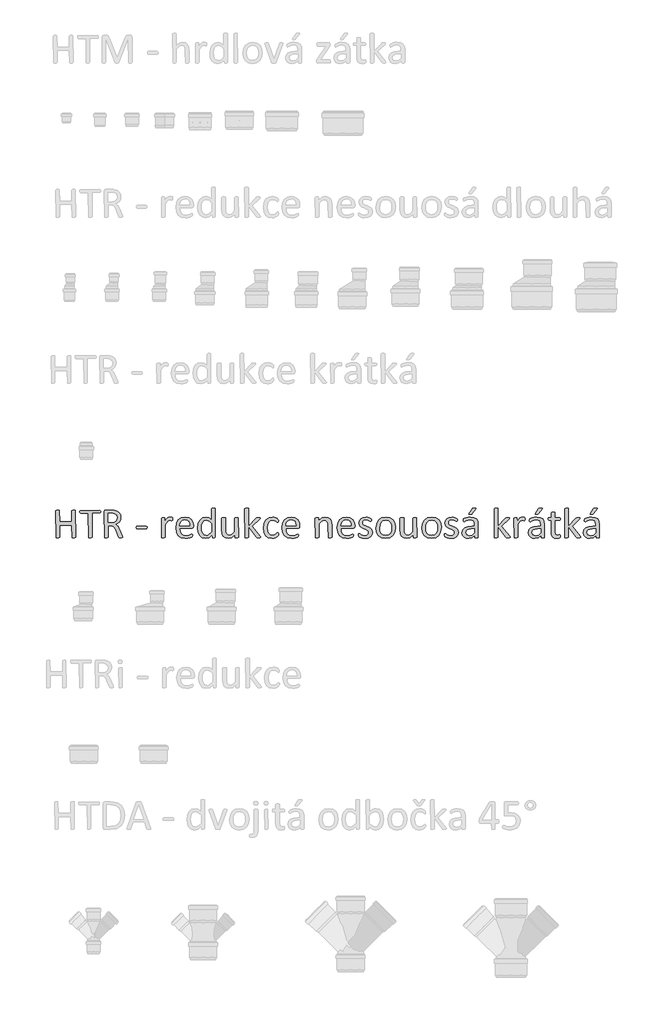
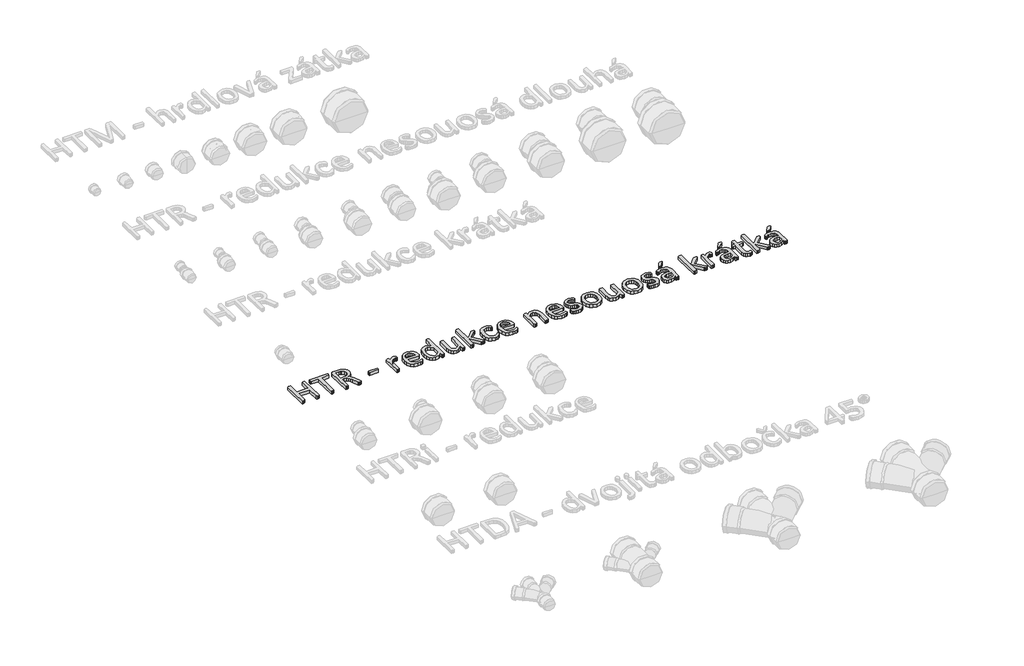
# One storey, part 20 of 26: 1 proxy.
"""IFC4 building model written with IfcOpenShell, lengths in millimetres."""

from ifc_helpers import new_model, si_unit, origin, origin_with_axes, place, context, project, spatial, polyline, outline, extrude, element, save

model = new_model("IFC4")

# Units and contexts
model_context = context("Model", 3, world=origin())
ifc_project = project(units=[si_unit("LENGTHUNIT", "METRE", prefix="MILLI")], contexts=[model_context])

# Site, building, storey
site = spatial("IfcSite", under=ifc_project)
building = spatial("IfcBuilding", under=site)
storey = spatial("IfcBuildingStorey", under=building, Name="Podlaží 1", Elevation=0.0)

# Proxy
placement = place(None, origin())
element("IfcBuildingElementProxy", 1, Name="120mm Arial", ObjectType="120mm Arial", at=placement, inside=storey, context=model_context, shape_type="SweptSolid", body=[
    extrude(outline(polyline([(-20460.0657483, 13191.6352271), (-20464.2817655, 13188.9029584), (-20468.1358927, 13188.66773), (-20472.1166815, 13188.9029584), (-20474.5775327, 13189.4457933), (-20476.2784151, 13244.2540162), (-20529.5486061, 13244.2540162), (-20529.5486061, 13191.5990381), (-20533.7465288, 13188.9029584), (-20537.6549395, 13188.66773), (-20541.5271613, 13188.9029584), (-20544.0603905, 13189.4638877), (-20545.7612729, 13306.1371865), (-20541.5271613, 13308.8694551), (-20537.6549395, 13309.1046835), (-20533.7465288, 13308.8694551), (-20531.2494886, 13308.3085258), (-20529.5486061, 13258.1505878), (-20476.2784151, 13258.1505878), (-20476.2784151, 13306.1371865), (-20472.1166815, 13308.8694551), (-20468.1358927, 13309.1046835), (-20464.2817655, 13308.8694551), (-20461.7666308, 13308.3085258), (-20460.0657483, 13191.6352271)])), origin_with_axes(), (0.0, 0.0, 1.0), 15.0),
    extrude(outline(polyline([(-20351.2092711, 13302.0478308), (-20351.390216, 13298.9174833), (-20351.9873343, 13296.782333), (-20388.2667952, 13295.208112), (-20388.2667952, 13191.6352271), (-20392.4647179, 13188.9029584), (-20396.3731287, 13188.66773), (-20400.2453504, 13188.9029584), (-20402.7785796, 13189.4638877), (-20404.4794621, 13295.208112), (-20438.3885442, 13295.208112), (-20441.3017578, 13298.9174833), (-20441.5369862, 13302.0478308), (-20441.3017578, 13305.2505563), (-20440.686545, 13307.4942735), (-20354.3939021, 13309.1046835), (-20352.0054288, 13307.4942735), (-20351.390216, 13305.2505563), (-20351.2092711, 13302.0478308)])), origin_with_axes(), (0.0, 0.0, 1.0), 15.0),
    extrude(outline(polyline([(-20255.4893967, 13191.5990381), (-20259.5606579, 13188.8486749), (-20264.0299979, 13188.66773), (-20267.9565032, 13188.8486749), (-20270.4173544, 13189.4457933), (-20271.8468194, 13190.5857464), (-20272.7153552, 13192.4313848), (-20283.7529966, 13220.2969059), (-20287.7518799, 13229.0184521), (-20292.6012043, 13235.8762654), (-20299.2056947, 13240.3456055), (-20308.3615088, 13241.937921), (-20318.7839374, 13241.937921), (-20318.7839374, 13191.5990381), (-20322.9818601, 13188.9029584), (-20326.8902709, 13188.66773), (-20330.7986816, 13188.9029584), (-20333.2957218, 13189.4638877), (-20334.9966043, 13302.6268546), (-20333.1328714, 13307.6752185), (-20329.1339881, 13309.1046835), (-20304.0188302, 13309.1046835), (-20296.6000875, 13308.8694551), (-20291.2441172, 13308.3447148), (-20279.1389006, 13304.544871), (-20270.3087874, 13297.9222861), (-20264.9709116, 13288.730283), (-20263.1976512, 13277.3307517), (-20264.7718722, 13266.4740551), (-20269.3316847, 13257.9877374), (-20276.47901, 13251.6184754), (-20285.815769, 13247.0405684), (-20280.4236097, 13243.7654649), (-20275.9180806, 13239.0247074), (-20271.9915754, 13232.6735399), (-20268.2641096, 13224.5672065), (-20257.51598, 13198.3301899), (-20255.8512866, 13193.6979994), (-20255.4893967, 13191.5990381)]), holes=[polyline([(-20279.410318, 13275.5936802), (-20282.5044765, 13287.2103455), (-20292.9088107, 13294.0500643), (-20298.0476471, 13294.9366946), (-20305.5749567, 13295.208112), (-20318.7839374, 13295.208112), (-20318.7839374, 13255.8344925), (-20303.4759953, 13255.8344925), (-20292.7640548, 13257.3182411), (-20285.2367452, 13261.4799747), (-20280.8216886, 13267.7587642), (-20279.410318, 13275.5936802)])]), origin_with_axes(), (0.0, 0.0, 1.0), 15.0),
    extrude(outline(polyline([(-20149.7089835, 13233.8677766), (-20150.5594247, 13229.307964), (-20153.0383704, 13228.0413494), (-20192.6291238, 13228.0413494), (-20195.1804474, 13229.344153), (-20196.0308887, 13233.8677766), (-20195.1804474, 13238.3552111), (-20192.6291238, 13239.6218257), (-20153.0383704, 13239.6218257), (-20149.9442119, 13236.5819507), (-20149.7089835, 13233.8677766)])), origin_with_axes(), (0.0, 0.0, 1.0), 15.0),
    extrude(outline(polyline([(-20038.536411, 13269.7310641), (-20038.6268835, 13266.4378662), (-20038.9887733, 13264.3027158), (-20042.5352942, 13263.0903847), (-20044.869484, 13263.9227315), (-20047.7826975, 13264.7188892), (-20051.2749349, 13265.0988736), (-20055.6899915, 13264.1036764), (-20060.2317096, 13260.8466674), (-20065.2076955, 13254.8392954), (-20070.9617446, 13245.6653868), (-20070.9617446, 13191.4904711), (-20075.0872893, 13188.8486749), (-20079.104267, 13188.66773), (-20083.0488668, 13188.8486749), (-20085.545907, 13189.3915098), (-20087.1744114, 13273.8566088), (-20083.4469456, 13276.5345939), (-20079.7918578, 13276.6793499), (-20076.2091479, 13276.5345939), (-20074.0016197, 13275.9917591), (-20072.5178711, 13261.8418646), (-20066.2571761, 13270.4186549), (-20060.7021664, 13275.6479637), (-20055.5271411, 13278.2716654), (-20050.3340212, 13278.9954451), (-20047.6922251, 13278.8687837), (-20044.5799721, 13278.3802323), (-20041.648664, 13277.5659801), (-20039.8030256, 13276.6793499), (-20038.5726, 13272.9880731), (-20038.536411, 13269.7310641)])), origin_with_axes(), (0.0, 0.0, 1.0), 15.0),
    extrude(outline(polyline([(-19948.2086958, 13236.9800296), (-19950.0000508, 13231.8773822), (-19954.107501, 13230.3574447), (-20008.4271726, 13230.3574447), (-20007.0700855, 13216.967519), (-20002.5645565, 13206.7622242), (-19994.3496561, 13200.2120173), (-19981.9730221, 13197.932111), (-19971.6953493, 13198.9996862), (-19963.8785278, 13201.4062539), (-19958.4682741, 13203.8128217), (-19955.2655486, 13204.8803968), (-19952.9675478, 13201.9852777), (-19952.8408864, 13199.3434816), (-19952.9313588, 13197.4073707), (-19957.3826044, 13192.0152114), (-19963.7337719, 13189.5181712), (-19972.781019, 13187.3287374), (-19983.7462825, 13186.3516347), (-20001.4246033, 13189.2467538), (-20014.1812218, 13197.8597331), (-20021.9980433, 13212.208667), (-20024.6398394, 13232.2392721), (-20021.8713818, 13251.7813258), (-20013.8917099, 13266.4740551), (-20001.2979419, 13275.7565307), (-19984.7595742, 13278.9954451), (-19968.1126395, 13275.8650976), (-19956.8035806, 13267.4330633), (-19950.2895627, 13255.0021458), (-19948.2086958, 13239.7665817), (-19948.2086958, 13236.9800296)]), holes=[polyline([(-19964.4213627, 13241.937921), (-19965.5929812, 13252.5639127), (-19969.6144825, 13260.6295335), (-19976.386347, 13265.71861), (-19985.8090548, 13267.4149688), (-19995.4534202, 13265.3160075), (-20002.3836115, 13259.7248088), (-20006.7081957, 13251.6003809), (-20008.4271726, 13241.937921), (-19964.4213627, 13241.937921)])]), origin_with_axes(), (0.0, 0.0, 1.0), 15.0),
    extrude(outline(polyline([(-19853.5744911, 13191.5628491), (-19856.9581615, 13188.8486749), (-19860.2694539, 13188.66773), (-19863.7074078, 13188.8486749), (-19865.9511251, 13189.3191318), (-19867.6158186, 13201.6233879), (-19881.0600278, 13190.386707), (-19896.3136864, 13186.3516347), (-19911.7301955, 13189.9524391), (-19922.0621517, 13199.687277), (-19927.8523898, 13214.1266834), (-19929.6799338, 13231.5878703), (-19927.4000275, 13251.2203965), (-19920.6688756, 13266.1664487), (-19909.6312342, 13275.6660582), (-19894.39567, 13278.9954451), (-19881.2409727, 13275.7565307), (-19869.461457, 13266.2569212), (-19869.461457, 13315.3653785), (-19867.7967635, 13317.5729068), (-19865.2997233, 13318.1338361), (-19861.4636906, 13318.3690646), (-19857.4467128, 13318.1338361), (-19855.0039561, 13317.5729068), (-19853.683058, 13316.6500876), (-19853.5744911, 13191.5628491)]), holes=[polyline([(-19869.461457, 13249.7547425), (-19881.0781223, 13261.1723683), (-19892.7671656, 13265.0988736), (-19902.3572475, 13262.3485105), (-19908.7626984, 13255.0926183), (-19912.3454083, 13244.8873235), (-19913.4672669, 13233.3249417), (-19912.5263532, 13221.0930636), (-19909.2512498, 13210.48969), (-19903.0629328, 13203.0528529), (-19893.3823784, 13200.2482063), (-19887.7007072, 13201.0624585), (-19882.091414, 13203.7585382), (-19876.1021364, 13208.6440516), (-19869.461457, 13216.0627943), (-19869.461457, 13249.7547425)])]), origin_with_axes(), (0.0, 0.0, 1.0), 15.0),
    extrude(outline(polyline([(-19753.656694, 13191.4904711), (-19757.5108213, 13188.8486749), (-19760.9668697, 13188.66773), (-19764.6581465, 13188.8486749), (-19766.9018638, 13189.3915098), (-19768.3132343, 13202.3833566), (-19782.1917114, 13190.1876675), (-19796.0701885, 13186.3516347), (-19809.894382, 13189.1381869), (-19818.9778181, 13196.6835909), (-19823.953804, 13207.7936104), (-19825.4556471, 13223.228214), (-19825.4556471, 13273.8204198), (-19823.7909536, 13275.9736646), (-19821.2577244, 13276.5345939), (-19817.3493137, 13276.6793499), (-19813.4409029, 13276.5345939), (-19810.9619572, 13275.9917591), (-19809.6410591, 13275.0870344), (-19809.2429802, 13225.7614432), (-19808.2296886, 13214.1628724), (-19805.1174356, 13206.7260352), (-19799.8338432, 13201.9490888), (-19792.3789116, 13200.2482063), (-19781.4317426, 13204.3194675), (-19769.8693608, 13216.2799282), (-19769.8693608, 13273.8566088), (-19768.2046674, 13275.9917591), (-19765.7076272, 13276.5345939), (-19761.7630274, 13276.6793499), (-19757.8546167, 13276.5345939), (-19755.4118599, 13275.9917591), (-19754.0909619, 13275.0870344), (-19753.656694, 13191.4904711)])), origin_with_axes(), (0.0, 0.0, 1.0), 15.0),
    extrude(outline(polyline([(-19656.3806931, 13191.5990381), (-19660.4519543, 13188.8486749), (-19664.4508375, 13188.66773), (-19668.5763822, 13188.812486), (-19671.3267453, 13189.2648483), (-19673.1361947, 13190.169573), (-19674.4028093, 13191.5990381), (-19709.6508841, 13237.1609745), (-19709.6508841, 13191.4904711), (-19713.7764287, 13188.8486749), (-19717.7934065, 13188.66773), (-19721.7380062, 13188.8486749), (-19724.2350464, 13189.4096043), (-19725.8635509, 13315.4015675), (-19721.7380062, 13318.1881196), (-19717.7934065, 13318.3690646), (-19713.7764287, 13318.1881196), (-19711.333672, 13317.6271903), (-19710.0489629, 13316.6862766), (-19709.6508841, 13239.2599358), (-19677.4426844, 13273.4947189), (-19675.8322744, 13274.9965619), (-19673.805691, 13275.9917591), (-19671.0191389, 13276.5345939), (-19667.1288226, 13276.6793499), (-19663.1480339, 13276.5345939), (-19660.5605212, 13276.0822316), (-19659.1310562, 13275.2679793), (-19659.3300956, 13271.739553), (-19661.4471515, 13269.1882293), (-19693.4382172, 13239.3685028), (-19658.6605994, 13195.9055277), (-19656.9054334, 13193.390393), (-19656.3806931, 13191.5990381)])), origin_with_axes(), (0.0, 0.0, 1.0), 15.0),
    extrude(outline(polyline([(-19579.9495495, 13205.3146647), (-19580.040022, 13202.7814355), (-19580.3657229, 13200.9719861), (-19582.3561172, 13197.3349927), (-19586.2464335, 13193.8065664), (-19592.416656, 13190.0610061), (-19599.8534931, 13187.3830209), (-19608.1769605, 13186.3516347), (-19623.8829815, 13189.3553208), (-19635.3367963, 13198.1311505), (-19642.3755546, 13212.281045), (-19644.8002168, 13231.6240593), (-19641.8327197, 13253.0660349), (-19633.7082918, 13267.7406697), (-19621.5668862, 13276.2269875), (-19606.439889, 13278.9954451), (-19598.8040125, 13278.1811929), (-19592.0004827, 13276.0460426), (-19586.4635674, 13273.0061676), (-19582.9532355, 13270.056765), (-19581.4513925, 13268.1206541), (-19580.7638017, 13266.5826221), (-19580.4019119, 13264.6827002), (-19580.3114394, 13262.0228096), (-19581.1256916, 13257.2096741), (-19583.0979915, 13255.8344925), (-19586.228339, 13257.2820521), (-19590.6976791, 13260.4666831), (-19597.2659805, 13263.651314), (-19606.3313221, 13265.0988736), (-19615.8535497, 13262.9999123), (-19622.8515953, 13256.7030283), (-19627.1535613, 13246.4072611), (-19628.58755, 13232.3116501), (-19627.1038014, 13218.3065115), (-19622.7249338, 13208.2459727), (-19615.6137976, 13202.2205062), (-19605.9694322, 13200.2482063), (-19596.9402796, 13202.0757502), (-19590.2091277, 13206.0927279), (-19585.4140868, 13210.0554222), (-19582.3742117, 13211.8286826), (-19580.076211, 13208.2640672), (-19579.9495495, 13205.3146647)])), origin_with_axes(), (0.0, 0.0, 1.0), 15.0),
    extrude(outline(polyline([(-19487.3057391, 13236.9800296), (-19489.097094, 13231.8773822), (-19493.2045442, 13230.3574447), (-19547.5242159, 13230.3574447), (-19546.1671288, 13216.967519), (-19541.6615997, 13206.7622242), (-19533.4466994, 13200.2120173), (-19521.0700653, 13197.932111), (-19510.7923926, 13198.9996862), (-19502.9755711, 13201.4062539), (-19497.5653173, 13203.8128217), (-19494.3625918, 13204.8803968), (-19492.0645911, 13201.9852777), (-19491.9379296, 13199.3434816), (-19492.0284021, 13197.4073707), (-19496.4796477, 13192.0152114), (-19502.8308151, 13189.5181712), (-19511.8780623, 13187.3287374), (-19522.8433257, 13186.3516347), (-19540.5216466, 13189.2467538), (-19553.278265, 13197.8597331), (-19561.0950865, 13212.208667), (-19563.7368827, 13232.2392721), (-19560.9684251, 13251.7813258), (-19552.9887531, 13266.4740551), (-19540.3949851, 13275.7565307), (-19523.8566174, 13278.9954451), (-19507.2096827, 13275.8650976), (-19495.9006239, 13267.4330633), (-19489.3866059, 13255.0021458), (-19487.3057391, 13239.7665817), (-19487.3057391, 13236.9800296)]), holes=[polyline([(-19503.5184059, 13241.937921), (-19504.6900244, 13252.5639127), (-19508.7115258, 13260.6295335), (-19515.4833902, 13265.71861), (-19524.9060981, 13267.4149688), (-19534.5504635, 13265.3160075), (-19541.4806548, 13259.7248088), (-19545.8052389, 13251.6003809), (-19547.5242159, 13241.937921), (-19503.5184059, 13241.937921)])]), origin_with_axes(), (0.0, 0.0, 1.0), 15.0),
    extrude(outline(polyline([(-19348.3400235, 13191.5266601), (-19352.4655682, 13188.8486749), (-19356.4101679, 13188.66773), (-19360.4271456, 13188.8486749), (-19362.8699024, 13189.3915098), (-19364.5526903, 13239.8751486), (-19365.6202655, 13251.238491), (-19368.714424, 13258.6753281), (-19373.9799218, 13263.4522746), (-19381.4529479, 13265.0988736), (-19392.4363059, 13261.0638014), (-19403.9263097, 13249.2119077), (-19403.9263097, 13191.5266601), (-19408.0518544, 13188.8486749), (-19412.0688321, 13188.66773), (-19416.0134319, 13188.8486749), (-19418.5104721, 13189.3915098), (-19420.1389766, 13273.8566088), (-19416.4115108, 13276.5345939), (-19412.7564229, 13276.6793499), (-19409.1737131, 13276.5345939), (-19406.9661848, 13275.9917591), (-19405.4824362, 13262.9637233), (-19391.6401482, 13275.1413179), (-19377.7254821, 13278.9954451), (-19363.9012885, 13276.172704), (-19354.8178524, 13268.6273), (-19349.8418665, 13257.571564), (-19348.3400235, 13242.3359999), (-19348.3400235, 13191.5266601)])), origin_with_axes(), (0.0, 0.0, 1.0), 15.0),
    extrude(outline(polyline([(-19248.7479273, 13236.9800296), (-19250.5392822, 13231.8773822), (-19254.6467324, 13230.3574447), (-19308.9664041, 13230.3574447), (-19307.609317, 13216.967519), (-19303.103788, 13206.7622242), (-19294.8888876, 13200.2120173), (-19282.5122535, 13197.932111), (-19272.2345808, 13198.9996862), (-19264.4177593, 13201.4062539), (-19259.0075055, 13203.8128217), (-19255.8047801, 13204.8803968), (-19253.5067793, 13201.9852777), (-19253.3801178, 13199.3434816), (-19253.4705903, 13197.4073707), (-19257.9218359, 13192.0152114), (-19264.2730034, 13189.5181712), (-19273.3202505, 13187.3287374), (-19284.285514, 13186.3516347), (-19301.9638348, 13189.2467538), (-19314.7204532, 13197.8597331), (-19322.5372747, 13212.208667), (-19325.1790709, 13232.2392721), (-19322.4106133, 13251.7813258), (-19314.4309413, 13266.4740551), (-19301.8371734, 13275.7565307), (-19285.2988056, 13278.9954451), (-19268.651871, 13275.8650976), (-19257.3428121, 13267.4330633), (-19250.8287942, 13255.0021458), (-19248.7479273, 13239.7665817), (-19248.7479273, 13236.9800296)]), holes=[polyline([(-19264.9605941, 13241.937921), (-19266.1322126, 13252.5639127), (-19270.153714, 13260.6295335), (-19276.9255784, 13265.71861), (-19286.3482863, 13267.4149688), (-19295.9926517, 13265.3160075), (-19302.922843, 13259.7248088), (-19307.2474271, 13251.6003809), (-19308.9664041, 13241.937921), (-19264.9605941, 13241.937921)])]), origin_with_axes(), (0.0, 0.0, 1.0), 15.0),
    extrude(outline(polyline([(-19172.3167837, 13213.4209981), (-19174.7233515, 13201.8948053), (-19181.5811648, 13193.3722985), (-19192.1664439, 13188.1248952), (-19205.6830311, 13186.3516347), (-19214.3502938, 13187.1839815), (-19221.714753, 13189.3010373), (-19227.2335737, 13191.9790224), (-19230.5448661, 13194.4941571), (-19232.0648037, 13197.1540478), (-19232.5352605, 13201.3700649), (-19232.3543156, 13204.1023336), (-19231.8838587, 13205.8936885), (-19226.9259673, 13205.7489325), (-19222.0042649, 13202.5643016), (-19215.0740736, 13199.3796706), (-19205.900165, 13197.932111), (-19198.8433123, 13198.8187413), (-19193.3606805, 13201.4424429), (-19189.7779707, 13205.8574995), (-19188.5294506, 13212.1905725), (-19190.3208055, 13218.1798501), (-19195.0796575, 13222.5044342), (-19201.7203368, 13225.8338211), (-19209.3200244, 13228.8736962), (-19216.9739955, 13232.4745005), (-19223.6689583, 13237.3962029), (-19228.4278103, 13244.3263942), (-19230.2191652, 13253.9888541), (-19228.3011489, 13263.4884636), (-19222.5470997, 13271.4500411), (-19212.9570178, 13276.9326728), (-19199.4947141, 13278.9954451), (-19192.7635622, 13278.3802323), (-19186.6838121, 13276.8241058), (-19182.0516216, 13274.7975225), (-19179.1565026, 13272.8795061), (-19177.853699, 13271.5043245), (-19177.0937302, 13268.6634889), (-19176.9489743, 13266.2569212), (-19177.0937302, 13263.6332196), (-19177.5641871, 13261.8056756), (-19181.9430547, 13261.5704472), (-19186.1590718, 13263.940826), (-19192.2388219, 13266.3112047), (-19200.2184938, 13267.4149688), (-19207.3115356, 13266.4921496), (-19212.341805, 13263.868448), (-19215.309302, 13259.8514703), (-19216.3225937, 13254.8212009), (-19214.4045773, 13248.6871673), (-19209.3924024, 13244.3263942), (-19202.3536441, 13240.9608183), (-19194.3196887, 13237.8847543), (-19186.2314498, 13234.3201389), (-19179.1565026, 13229.5431924), (-19174.1986111, 13222.7939461), (-19172.3167837, 13213.4209981)])), origin_with_axes(), (0.0, 0.0, 1.0), 15.0),
    extrude(outline(polyline([(-19072.7246876, 13233.5782647), (-19075.4026727, 13214.5971402), (-19083.4185336, 13199.651088), (-19096.7722704, 13189.8619666), (-19115.3553159, 13186.3516347), (-19133.2688652, 13189.4457933), (-19146.0073891, 13198.4387569), (-19153.6070767, 13212.7695963), (-19156.1041169, 13231.8773822), (-19153.4623208, 13250.8585066), (-19145.5007433, 13265.7864644), (-19132.2012901, 13275.5213023), (-19113.5820555, 13278.9954451), (-19095.6504117, 13275.9012866), (-19082.9118878, 13266.908323), (-19075.2760112, 13252.5774836), (-19072.7246876, 13233.5782647)]), holes=[polyline([(-19088.9373544, 13232.492595), (-19090.1858745, 13245.0682685), (-19094.2933247, 13255.4545082), (-19102.0196737, 13262.5113609), (-19114.1972683, 13265.0988736), (-19125.7596501, 13262.7284948), (-19133.7212276, 13256.033532), (-19138.3715126, 13245.7920483), (-19139.8914501, 13232.8544849), (-19138.64293, 13220.2064334), (-19134.4992908, 13209.8563827), (-19126.7186583, 13202.835719), (-19114.5591582, 13200.2482063), (-19103.0329654, 13202.618585), (-19095.0171044, 13209.2592644), (-19090.4030084, 13219.4645592), (-19088.9373544, 13232.492595)])]), origin_with_axes(), (0.0, 0.0, 1.0), 15.0),
    extrude(outline(polyline([(-18980.0808772, 13191.4904711), (-18983.9350044, 13188.8486749), (-18987.3910528, 13188.66773), (-18991.0823296, 13188.8486749), (-18993.3260469, 13189.3915098), (-18994.7374175, 13202.3833566), (-19008.6158945, 13190.1876675), (-19022.4943716, 13186.3516347), (-19036.3185652, 13189.1381869), (-19045.4020013, 13196.6835909), (-19050.3779872, 13207.7936104), (-19051.8798302, 13223.228214), (-19051.8798302, 13273.8204198), (-19050.2151368, 13275.9736646), (-19047.6819076, 13276.5345939), (-19043.7734968, 13276.6793499), (-19039.8650861, 13276.5345939), (-19037.3861404, 13275.9917591), (-19036.0652423, 13275.0870344), (-19035.6671634, 13225.7614432), (-19034.6538717, 13214.1628724), (-19031.5416187, 13206.7260352), (-19026.2580264, 13201.9490888), (-19018.8030948, 13200.2482063), (-19007.8559258, 13204.3194675), (-18996.293544, 13216.2799282), (-18996.293544, 13273.8566088), (-18994.6288505, 13275.9917591), (-18992.1318103, 13276.5345939), (-18988.1872106, 13276.6793499), (-18984.2787998, 13276.5345939), (-18981.8360431, 13275.9917591), (-18980.515145, 13275.0870344), (-18980.0808772, 13191.4904711)])), origin_with_axes(), (0.0, 0.0, 1.0), 15.0),
    extrude(outline(polyline([(-18873.5404952, 13233.5782647), (-18876.2184803, 13214.5971402), (-18884.2343413, 13199.651088), (-18897.588078, 13189.8619666), (-18916.1711236, 13186.3516347), (-18934.0846729, 13189.4457933), (-18946.8231968, 13198.4387569), (-18954.4228844, 13212.7695963), (-18956.9199246, 13231.8773822), (-18954.2781284, 13250.8585066), (-18946.3165509, 13265.7864644), (-18933.0170977, 13275.5213023), (-18914.3978631, 13278.9954451), (-18896.4662194, 13275.9012866), (-18883.7276954, 13266.908323), (-18876.0918189, 13252.5774836), (-18873.5404952, 13233.5782647)]), holes=[polyline([(-18889.753162, 13232.492595), (-18891.0016821, 13245.0682685), (-18895.1091323, 13255.4545082), (-18902.8354813, 13262.5113609), (-18915.0130759, 13265.0988736), (-18926.5754578, 13262.7284948), (-18934.5370352, 13256.033532), (-18939.1873202, 13245.7920483), (-18940.7072577, 13232.8544849), (-18939.4587376, 13220.2064334), (-18935.3150985, 13209.8563827), (-18927.5344659, 13202.835719), (-18915.3749658, 13200.2482063), (-18903.848773, 13202.618585), (-18895.8329121, 13209.2592644), (-18891.2188161, 13219.4645592), (-18889.753162, 13232.492595)])]), origin_with_axes(), (0.0, 0.0, 1.0), 15.0),
    extrude(outline(polyline([(-18799.4254469, 13213.4209981), (-18801.8320146, 13201.8948053), (-18808.6898279, 13193.3722985), (-18819.275107, 13188.1248952), (-18832.7916942, 13186.3516347), (-18841.4589569, 13187.1839815), (-18848.8234161, 13189.3010373), (-18854.3422368, 13191.9790224), (-18857.6535293, 13194.4941571), (-18859.1734668, 13197.1540478), (-18859.6439236, 13201.3700649), (-18859.4629787, 13204.1023336), (-18858.9925218, 13205.8936885), (-18854.0346304, 13205.7489325), (-18849.112928, 13202.5643016), (-18842.1827367, 13199.3796706), (-18833.0088281, 13197.932111), (-18825.9519754, 13198.8187413), (-18820.4693437, 13201.4424429), (-18816.8866338, 13205.8574995), (-18815.6381137, 13212.1905725), (-18817.4294686, 13218.1798501), (-18822.1883206, 13222.5044342), (-18828.829, 13225.8338211), (-18836.4286876, 13228.8736962), (-18844.0826586, 13232.4745005), (-18850.7776215, 13237.3962029), (-18855.5364735, 13244.3263942), (-18857.3278284, 13253.9888541), (-18855.409812, 13263.4884636), (-18849.6557628, 13271.4500411), (-18840.0656809, 13276.9326728), (-18826.6033772, 13278.9954451), (-18819.8722253, 13278.3802323), (-18813.7924753, 13276.8241058), (-18809.1602848, 13274.7975225), (-18806.2651657, 13272.8795061), (-18804.9623621, 13271.5043245), (-18804.2023934, 13268.6634889), (-18804.0576374, 13266.2569212), (-18804.2023934, 13263.6332196), (-18804.6728502, 13261.8056756), (-18809.0517178, 13261.5704472), (-18813.267735, 13263.940826), (-18819.347485, 13266.3112047), (-18827.327157, 13267.4149688), (-18834.4201987, 13266.4921496), (-18839.4504681, 13263.868448), (-18842.4179651, 13259.8514703), (-18843.4312568, 13254.8212009), (-18841.5132404, 13248.6871673), (-18836.5010655, 13244.3263942), (-18829.4623073, 13240.9608183), (-18821.4283518, 13237.8847543), (-18813.3401129, 13234.3201389), (-18806.2651657, 13229.5431924), (-18801.3072743, 13222.7939461), (-18799.4254469, 13213.4209981)])), origin_with_axes(), (0.0, 0.0, 1.0), 15.0),
    extrude(outline(polyline([(-18739.2431591, 13315.0758666), (-18737.9041665, 13316.6681821), (-18736.0404336, 13317.6452848), (-18733.308165, 13318.1881196), (-18729.3997543, 13318.3690646), (-18725.0570756, 13318.0614582), (-18722.7409804, 13317.1748279), (-18722.9943033, 13314.2435199), (-18740.2926398, 13293.4348515), (-18741.6859158, 13292.0053865), (-18743.1153809, 13291.1549453), (-18745.2143422, 13290.7025829), (-18748.4351622, 13290.5759214), (-18751.7645491, 13290.8473389), (-18753.5016206, 13291.5711186), (-18753.1035417, 13294.4119542), (-18739.2431591, 13315.0758666)])), origin_with_axes(), (0.0, 0.0, 1.0), 15.0),
    extrude(outline(polyline([(-18713.7299223, 13191.4542821), (-18714.52608, 13189.7714942), (-18716.6974193, 13188.9391474), (-18720.750586, 13188.66773), (-18724.8580362, 13188.9391474), (-18727.083659, 13189.7714942), (-18727.7712498, 13191.4542821), (-18727.7712498, 13199.7777495), (-18739.9669389, 13190.1514785), (-18754.2254003, 13186.3516347), (-18766.185861, 13188.0706117), (-18775.2873916, 13193.0465976), (-18781.1319132, 13201.044364), (-18783.2127801, 13211.8286826), (-18780.3357555, 13224.0967497), (-18772.0846661, 13232.7459179), (-18758.9299688, 13237.9028488), (-18741.4144984, 13239.6218257), (-18729.9425891, 13239.6218257), (-18729.9425891, 13246.5339225), (-18730.9558808, 13255.5811696), (-18734.2128897, 13262.1313765), (-18740.0212224, 13266.0759763), (-18748.7970521, 13267.4149688), (-18758.8394963, 13265.9674093), (-18766.6201289, 13262.7827783), (-18772.2113276, 13259.5981473), (-18775.5407145, 13258.1505878), (-18778.3996446, 13261.6790142), (-18778.5805895, 13264.3389048), (-18778.2548886, 13268.1387486), (-18776.6625732, 13270.7986393), (-18772.3198945, 13273.5128134), (-18765.2268528, 13276.1907985), (-18756.4510231, 13278.1992874), (-18746.8428467, 13278.9954451), (-18731.4625266, 13276.9507673), (-18721.2029484, 13270.9795842), (-18715.5031827, 13261.2266518), (-18713.7299223, 13247.6195922), (-18713.7299223, 13191.4542821)]), holes=[polyline([(-18729.9425891, 13228.0413494), (-18742.825869, 13228.0413494), (-18753.5739985, 13226.9737743), (-18761.1555916, 13223.8253323), (-18765.5887427, 13218.8312519), (-18767.0001132, 13212.1181945), (-18762.9469465, 13201.7681438), (-18751.5836042, 13197.932111), (-18740.5821517, 13200.9900806), (-18729.9425891, 13210.3449341), (-18729.9425891, 13228.0413494)])]), origin_with_axes(), (0.0, 0.0, 1.0), 15.0),
    extrude(outline(polyline([(-18574.7642067, 13191.5990381), (-18578.8354679, 13188.8486749), (-18582.8343511, 13188.66773), (-18586.9598958, 13188.812486), (-18589.7102589, 13189.2648483), (-18591.5197083, 13190.169573), (-18592.7863229, 13191.5990381), (-18628.0343976, 13237.1609745), (-18628.0343976, 13191.4904711), (-18632.1599423, 13188.8486749), (-18636.17692, 13188.66773), (-18640.1215198, 13188.8486749), (-18642.61856, 13189.4096043), (-18644.2470645, 13315.4015675), (-18640.1215198, 13318.1881196), (-18636.17692, 13318.3690646), (-18632.1599423, 13318.1881196), (-18629.7171856, 13317.6271903), (-18628.4324765, 13316.6862766), (-18628.0343976, 13239.2599358), (-18595.8261979, 13273.4947189), (-18594.2157879, 13274.9965619), (-18592.1892046, 13275.9917591), (-18589.4026525, 13276.5345939), (-18585.5123362, 13276.6793499), (-18581.5315475, 13276.5345939), (-18578.9440348, 13276.0822316), (-18577.5145698, 13275.2679793), (-18577.7136092, 13271.739553), (-18579.830665, 13269.1882293), (-18611.8217308, 13239.3685028), (-18577.0441129, 13195.9055277), (-18575.288947, 13193.390393), (-18574.7642067, 13191.5990381)])), origin_with_axes(), (0.0, 0.0, 1.0), 15.0),
    extrude(outline(polyline([(-18509.9135394, 13269.7310641), (-18510.0040118, 13266.4378662), (-18510.3659017, 13264.3027158), (-18513.9124226, 13263.0903847), (-18516.2466124, 13263.9227315), (-18519.1598259, 13264.7188892), (-18522.6520633, 13265.0988736), (-18527.0671199, 13264.1036764), (-18531.6088379, 13260.8466674), (-18536.5848239, 13254.8392954), (-18542.338873, 13245.6653868), (-18542.338873, 13191.4904711), (-18546.4644177, 13188.8486749), (-18550.4813954, 13188.66773), (-18554.4259952, 13188.8486749), (-18556.9230354, 13189.3915098), (-18558.5515398, 13273.8566088), (-18554.824074, 13276.5345939), (-18551.1689862, 13276.6793499), (-18547.5862763, 13276.5345939), (-18545.378748, 13275.9917591), (-18543.8949995, 13261.8418646), (-18537.6343045, 13270.4186549), (-18532.0792948, 13275.6479637), (-18526.9042694, 13278.2716654), (-18521.7111496, 13278.9954451), (-18519.0693535, 13278.8687837), (-18515.9571004, 13278.3802323), (-18513.0257924, 13277.5659801), (-18511.180154, 13276.6793499), (-18509.9497284, 13272.9880731), (-18509.9135394, 13269.7310641)])), origin_with_axes(), (0.0, 0.0, 1.0), 15.0),
    extrude(outline(polyline([(-18452.0473469, 13315.0758666), (-18450.7083543, 13316.6681821), (-18448.8446214, 13317.6452848), (-18446.1123528, 13318.1881196), (-18442.203942, 13318.3690646), (-18437.8612634, 13318.0614582), (-18435.5451681, 13317.1748279), (-18435.7984911, 13314.2435199), (-18453.0968275, 13293.4348515), (-18454.4901036, 13292.0053865), (-18455.9195686, 13291.1549453), (-18458.01853, 13290.7025829), (-18461.2393499, 13290.5759214), (-18464.5687369, 13290.8473389), (-18466.3058083, 13291.5711186), (-18465.9077294, 13294.4119542), (-18452.0473469, 13315.0758666)])), origin_with_axes(), (0.0, 0.0, 1.0), 15.0),
    extrude(outline(polyline([(-18426.53411, 13191.4542821), (-18427.3302678, 13189.7714942), (-18429.5016071, 13188.9391474), (-18433.5547738, 13188.66773), (-18437.662224, 13188.9391474), (-18439.8878468, 13189.7714942), (-18440.5754375, 13191.4542821), (-18440.5754375, 13199.7777495), (-18452.7711266, 13190.1514785), (-18467.0295881, 13186.3516347), (-18478.9900488, 13188.0706117), (-18488.0915793, 13193.0465976), (-18493.936101, 13201.044364), (-18496.0169678, 13211.8286826), (-18493.1399432, 13224.0967497), (-18484.8888539, 13232.7459179), (-18471.7341566, 13237.9028488), (-18454.2186862, 13239.6218257), (-18442.7467768, 13239.6218257), (-18442.7467768, 13246.5339225), (-18443.7600685, 13255.5811696), (-18447.0170775, 13262.1313765), (-18452.8254101, 13266.0759763), (-18461.6012398, 13267.4149688), (-18471.6436841, 13265.9674093), (-18479.4243166, 13262.7827783), (-18485.0155153, 13259.5981473), (-18488.3449023, 13258.1505878), (-18491.2038324, 13261.6790142), (-18491.3847773, 13264.3389048), (-18491.0590764, 13268.1387486), (-18489.4667609, 13270.7986393), (-18485.1240823, 13273.5128134), (-18478.0310406, 13276.1907985), (-18469.2552109, 13278.1992874), (-18459.6470344, 13278.9954451), (-18444.2667144, 13276.9507673), (-18434.0071361, 13270.9795842), (-18428.3073705, 13261.2266518), (-18426.53411, 13247.6195922), (-18426.53411, 13191.4542821)]), holes=[polyline([(-18442.7467768, 13228.0413494), (-18455.6300567, 13228.0413494), (-18466.3781863, 13226.9737743), (-18473.9597794, 13223.8253323), (-18478.3929304, 13218.8312519), (-18479.804301, 13212.1181945), (-18475.7511343, 13201.7681438), (-18464.3877919, 13197.932111), (-18453.3863394, 13200.9900806), (-18442.7467768, 13210.3449341), (-18442.7467768, 13228.0413494)])]), origin_with_axes(), (0.0, 0.0, 1.0), 15.0),
    extrude(outline(polyline([(-18357.0512522, 13196.9911973), (-18357.4131421, 13192.4675738), (-18358.5169062, 13190.0067226), (-18360.7244345, 13188.5229741), (-18364.071916, 13187.3830209), (-18368.0707992, 13186.6411467), (-18372.2868163, 13186.3516347), (-18383.3063633, 13188.1068007), (-18390.8155784, 13193.4084875), (-18395.0858791, 13202.4014511), (-18396.4248716, 13215.2666365), (-18396.4248716, 13265.0988736), (-18407.4263241, 13265.0988736), (-18409.5433799, 13266.4559607), (-18410.3214432, 13270.8529227), (-18410.1043093, 13273.5490024), (-18409.5433799, 13275.3765463), (-18396.4248716, 13276.6793499), (-18396.4248716, 13296.8366164), (-18394.7963672, 13299.0441447), (-18392.299327, 13299.6593575), (-18388.3547272, 13299.8403025), (-18384.3377495, 13299.6593575), (-18381.8949928, 13299.0441447), (-18380.6102837, 13298.0489476), (-18380.2122048, 13276.6793499), (-18359.9463713, 13276.6793499), (-18357.2321972, 13273.5490024), (-18357.0512522, 13270.8529227), (-18357.84741, 13266.4559607), (-18359.9463713, 13265.0988736), (-18380.2122048, 13265.0988736), (-18380.2122048, 13217.9084327), (-18377.8056371, 13204.7175464), (-18369.1745633, 13200.2482063), (-18365.573759, 13200.6643797), (-18362.7691124, 13201.5329154), (-18360.6520566, 13202.4195456), (-18359.0778356, 13202.8538135), (-18357.2321972, 13199.9225054), (-18357.0512522, 13196.9911973)])), origin_with_axes(), (0.0, 0.0, 1.0), 15.0),
    extrude(outline(polyline([(-18269.0396323, 13191.5990381), (-18273.1108935, 13188.8486749), (-18277.1097768, 13188.66773), (-18281.2353214, 13188.812486), (-18283.9856846, 13189.2648483), (-18285.795134, 13190.169573), (-18287.0617486, 13191.5990381), (-18322.3098233, 13237.1609745), (-18322.3098233, 13191.4904711), (-18326.435368, 13188.8486749), (-18330.4523457, 13188.66773), (-18334.3969455, 13188.8486749), (-18336.8939857, 13189.4096043), (-18338.5224901, 13315.4015675), (-18334.3969455, 13318.1881196), (-18330.4523457, 13318.3690646), (-18326.435368, 13318.1881196), (-18323.9926113, 13317.6271903), (-18322.7079022, 13316.6862766), (-18322.3098233, 13239.2599358), (-18290.1016236, 13273.4947189), (-18288.4912136, 13274.9965619), (-18286.4646303, 13275.9917591), (-18283.6780782, 13276.5345939), (-18279.7877619, 13276.6793499), (-18275.8069732, 13276.5345939), (-18273.2194605, 13276.0822316), (-18271.7899955, 13275.2679793), (-18271.9890349, 13271.739553), (-18274.1060907, 13269.1882293), (-18306.0971565, 13239.3685028), (-18271.3195386, 13195.9055277), (-18269.5643727, 13193.390393), (-18269.0396323, 13191.5990381)])), origin_with_axes(), (0.0, 0.0, 1.0), 15.0),
    extrude(outline(polyline([(-18213.4895351, 13315.0758666), (-18212.1505425, 13316.6681821), (-18210.2868096, 13317.6452848), (-18207.554541, 13318.1881196), (-18203.6461302, 13318.3690646), (-18199.3034516, 13318.0614582), (-18196.9873564, 13317.1748279), (-18197.2406793, 13314.2435199), (-18214.5390157, 13293.4348515), (-18215.9322918, 13292.0053865), (-18217.3617568, 13291.1549453), (-18219.4607182, 13290.7025829), (-18222.6815381, 13290.5759214), (-18226.0109251, 13290.8473389), (-18227.7479965, 13291.5711186), (-18227.3499177, 13294.4119542), (-18213.4895351, 13315.0758666)])), origin_with_axes(), (0.0, 0.0, 1.0), 15.0),
    extrude(outline(polyline([(-18187.9762982, 13191.4542821), (-18188.772456, 13189.7714942), (-18190.9437953, 13188.9391474), (-18194.996962, 13188.66773), (-18199.1044122, 13188.9391474), (-18201.330035, 13189.7714942), (-18202.0176257, 13191.4542821), (-18202.0176257, 13199.7777495), (-18214.2133149, 13190.1514785), (-18228.4717763, 13186.3516347), (-18240.432237, 13188.0706117), (-18249.5337676, 13193.0465976), (-18255.3782892, 13201.044364), (-18257.459156, 13211.8286826), (-18254.5821315, 13224.0967497), (-18246.3310421, 13232.7459179), (-18233.1763448, 13237.9028488), (-18215.6608744, 13239.6218257), (-18204.1889651, 13239.6218257), (-18204.1889651, 13246.5339225), (-18205.2022567, 13255.5811696), (-18208.4592657, 13262.1313765), (-18214.2675983, 13266.0759763), (-18223.043428, 13267.4149688), (-18233.0858723, 13265.9674093), (-18240.8665048, 13262.7827783), (-18246.4577036, 13259.5981473), (-18249.7870905, 13258.1505878), (-18252.6460206, 13261.6790142), (-18252.8269655, 13264.3389048), (-18252.5012646, 13268.1387486), (-18250.9089491, 13270.7986393), (-18246.5662705, 13273.5128134), (-18239.4732288, 13276.1907985), (-18230.6973991, 13278.1992874), (-18221.0892227, 13278.9954451), (-18205.7089026, 13276.9507673), (-18195.4493243, 13270.9795842), (-18189.7495587, 13261.2266518), (-18187.9762982, 13247.6195922), (-18187.9762982, 13191.4542821)]), holes=[polyline([(-18204.1889651, 13228.0413494), (-18217.0722449, 13228.0413494), (-18227.8203745, 13226.9737743), (-18235.4019676, 13223.8253323), (-18239.8351187, 13218.8312519), (-18241.2464892, 13212.1181945), (-18237.1933225, 13201.7681438), (-18225.8299801, 13197.932111), (-18214.8285277, 13200.9900806), (-18204.1889651, 13210.3449341), (-18204.1889651, 13228.0413494)])]), origin_with_axes(), (0.0, 0.0, 1.0), 15.0),
])

save(model, "model.ifc")
